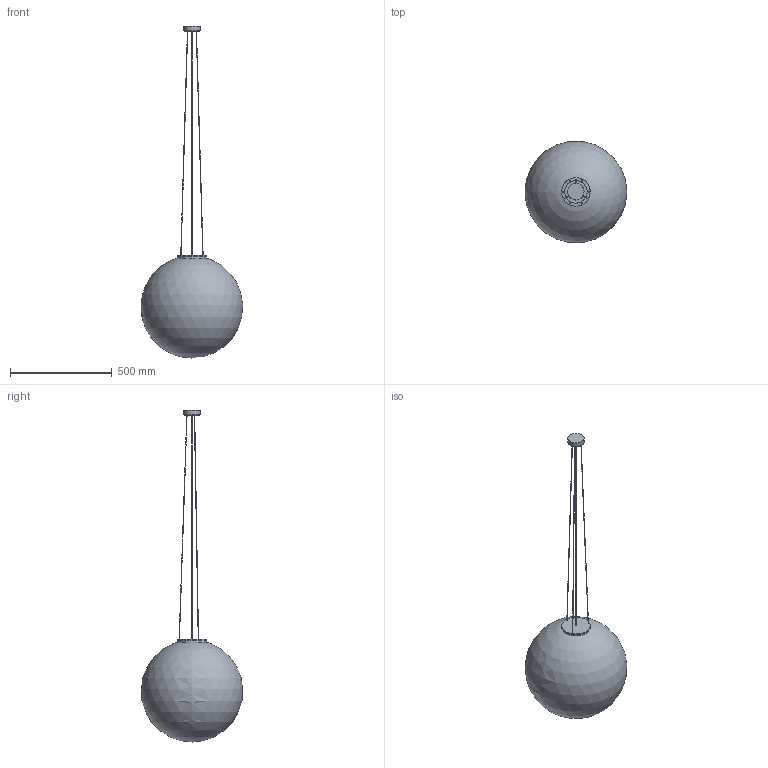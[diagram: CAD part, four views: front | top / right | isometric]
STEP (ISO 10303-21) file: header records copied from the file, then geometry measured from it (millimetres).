
FILE_DESCRIPTION(/* description */ (''),/* implementation_level */ '2;1');
FILE_NAME(/* name */ 'C:/Users/LukasGröber/GMS Cloud/Groeber Mannheim Lichtwerke - Dokumente/Marketing/Produkte/3D Daten/Snowball Pendel Innen/Snowball 50 Pendel Innen.step',/* time_stamp */ '2022-07-08T09:19:46+02:00',/* author */ (''),/* organization */ (''),/* preprocessor_version */ 'ST-DEVELOPER v19',/* originating_system */ 'Autodesk Translation Framework v11.7.0.108',/* authorisation */ '');
FILE_SCHEMA (('AUTOMOTIVE_DESIGN { 1 0 10303 214 3 1 1 }'));
Length unit declared in the file: millimetre
Products named in the file (5): Snowball 50 Pendel Innen; Pendel Innen Aufhängung Kugeln 30-60; Pendel Innen LED Mönskappe (Modell); Baldachin klein Modell; Snowball 500 Öffnung 80
Assembly tree (4 placements, depth 3):
  Snowball 50 Pendel Innen
    Pendel Innen Aufhängung Kugeln 30-60
      Pendel Innen LED Mönskappe (Modell)
      Baldachin klein Modell
    Snowball 500 Öffnung 80
Bounding box: 499.05 x 496.06 x 1627.61 mm (x, y, z)
Volume: 4066122.1 mm3; surface area: 1610565.5 mm2
Topology: 7 solids, 7 shells, 54 faces, 84 edges, 56 vertices
Faces by surface type: plane 27, cylinder 18, bspline 6, sphere 2, torus 1
Full cylindrical faces by diameter (mm): 1.5 x6, 3 x3, 5 x6, 80 x2, 140 x1
Entity records: 2120 total; most frequent: CARTESIAN_POINT 1007, DIRECTION 218, ORIENTED_EDGE 164, AXIS2_PLACEMENT_3D 100, EDGE_CURVE 82, EDGE_LOOP 68, VERTEX_POINT 56, FACE_OUTER_BOUND 54
